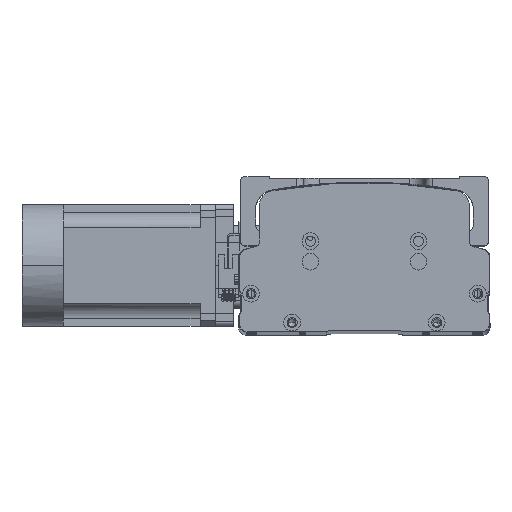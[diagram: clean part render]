
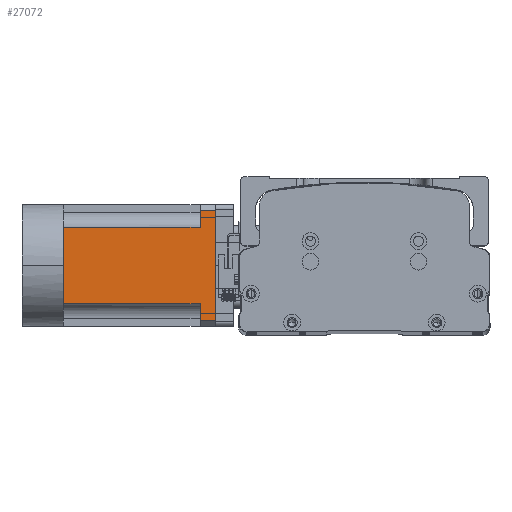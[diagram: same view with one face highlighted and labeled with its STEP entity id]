
A CAD part, top view. The second image highlights one B-rep face of the part: STEP entity #27072.
In plain terms, the highlighted planar face has unit normal (0, -0.003, 1) as drawn and (0, 0, -1) by its records, which use the part's own axes.
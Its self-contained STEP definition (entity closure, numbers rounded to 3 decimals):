
#1167 = DIRECTION ( 'NONE',  ( -1., 0., 0. ) ) ;
#2280 = CARTESIAN_POINT ( 'NONE',  ( -40., 0., -40. ) ) ;
#2889 = CARTESIAN_POINT ( 'NONE',  ( -25., -27., -40. ) ) ;
#2937 = CARTESIAN_POINT ( 'NONE',  ( -40., 0., -40. ) ) ;
#4134 = CARTESIAN_POINT ( 'NONE',  ( 36., 100., -40. ) ) ;
#4212 = ORIENTED_EDGE ( 'NONE', *, *, #38531, .T. ) ;
#4340 = DIRECTION ( 'NONE',  ( 0., 1., 0. ) ) ;
#5735 = AXIS2_PLACEMENT_3D ( 'NONE', #20527, #24449, #1167 ) ;
#5803 = VERTEX_POINT ( 'NONE', #7200 ) ;
#7200 = CARTESIAN_POINT ( 'NONE',  ( -25., 90., -40. ) ) ;
#7787 = CARTESIAN_POINT ( 'NONE',  ( -25., 0., -40. ) ) ;
#7981 = EDGE_CURVE ( 'NONE', #29539, #13486, #41299, .T. ) ;
#8388 = ORIENTED_EDGE ( 'NONE', *, *, #45149, .T. ) ;
#8851 = VECTOR ( 'NONE', #47429, 1000. ) ;
#8999 = VECTOR ( 'NONE', #33837, 1000. ) ;
#9034 = ORIENTED_EDGE ( 'NONE', *, *, #33605, .T. ) ;
#10208 = LINE ( 'NONE', #2889, #8999 ) ;
#10684 = LINE ( 'NONE', #43391, #40487 ) ;
#11106 = VECTOR ( 'NONE', #48863, 1000. ) ;
#12281 = CARTESIAN_POINT ( 'NONE',  ( 25., 90., -40. ) ) ;
#12362 = CARTESIAN_POINT ( 'NONE',  ( 25., 0., -40. ) ) ;
#12733 = VECTOR ( 'NONE', #4340, 1000. ) ;
#13048 = EDGE_LOOP ( 'NONE', ( #36412, #17933, #8388, #48542, #9034, #42043, #39690, #4212, #40430 ) ) ;
#13486 = VERTEX_POINT ( 'NONE', #19384 ) ;
#13753 = VECTOR ( 'NONE', #14468, 1000. ) ;
#14468 = DIRECTION ( 'NONE',  ( -1., 0., 0. ) ) ;
#15545 = VECTOR ( 'NONE', #23357, 1000. ) ;
#15907 = CARTESIAN_POINT ( 'NONE',  ( -40., 90., -40. ) ) ;
#16715 = EDGE_CURVE ( 'NONE', #49562, #44267, #10684, .T. ) ;
#16923 = VECTOR ( 'NONE', #28126, 1000. ) ;
#17933 = ORIENTED_EDGE ( 'NONE', *, *, #16715, .T. ) ;
#19384 = CARTESIAN_POINT ( 'NONE',  ( -36., 100., -40. ) ) ;
#20120 = DIRECTION ( 'NONE',  ( 0., -1., 0. ) ) ;
#20527 = CARTESIAN_POINT ( 'NONE',  ( -40., -27., -40. ) ) ;
#21168 = EDGE_CURVE ( 'NONE', #27015, #5803, #10208, .T. ) ;
#23357 = DIRECTION ( 'NONE',  ( -1., 0., 0. ) ) ;
#23767 = EDGE_CURVE ( 'NONE', #49562, #13486, #44260, .T. ) ;
#24449 = DIRECTION ( 'NONE',  ( 0., 0., -1. ) ) ;
#24689 = CARTESIAN_POINT ( 'NONE',  ( -36., 90., -40. ) ) ;
#27015 = VERTEX_POINT ( 'NONE', #7787 ) ;
#27072 = ADVANCED_FACE ( 'NONE', ( #42579 ), #43808, .T. ) ;
#27812 = CARTESIAN_POINT ( 'NONE',  ( -36., -27., -40. ) ) ;
#28126 = DIRECTION ( 'NONE',  ( -1., 0., 0. ) ) ;
#29155 = EDGE_CURVE ( 'NONE', #39723, #27015, #43584, .T. ) ;
#29539 = VERTEX_POINT ( 'NONE', #24689 ) ;
#29544 = LINE ( 'NONE', #43495, #8851 ) ;
#32905 = LINE ( 'NONE', #43996, #42010 ) ;
#33605 = EDGE_CURVE ( 'NONE', #46811, #39723, #42113, .T. ) ;
#33837 = DIRECTION ( 'NONE',  ( 0., 1., 0. ) ) ;
#36412 = ORIENTED_EDGE ( 'NONE', *, *, #23767, .F. ) ;
#38003 = VERTEX_POINT ( 'NONE', #12281 ) ;
#38531 = EDGE_CURVE ( 'NONE', #5803, #29539, #29544, .T. ) ;
#39690 = ORIENTED_EDGE ( 'NONE', *, *, #21168, .T. ) ;
#39723 = VERTEX_POINT ( 'NONE', #44954 ) ;
#40430 = ORIENTED_EDGE ( 'NONE', *, *, #7981, .T. ) ;
#40487 = VECTOR ( 'NONE', #20120, 1000. ) ;
#40688 = EDGE_CURVE ( 'NONE', #38003, #46811, #32905, .T. ) ;
#41299 = LINE ( 'NONE', #27812, #12733 ) ;
#41457 = CARTESIAN_POINT ( 'NONE',  ( 36., 90., -40. ) ) ;
#42010 = VECTOR ( 'NONE', #47935, 1000. ) ;
#42043 = ORIENTED_EDGE ( 'NONE', *, *, #29155, .T. ) ;
#42113 = LINE ( 'NONE', #2280, #11106 ) ;
#42579 = FACE_OUTER_BOUND ( 'NONE', #13048, .T. ) ;
#43391 = CARTESIAN_POINT ( 'NONE',  ( 36., -27., -40. ) ) ;
#43495 = CARTESIAN_POINT ( 'NONE',  ( -40., 90., -40. ) ) ;
#43584 = LINE ( 'NONE', #2937, #13753 ) ;
#43808 = PLANE ( 'NONE',  #5735 ) ;
#43996 = CARTESIAN_POINT ( 'NONE',  ( 25., -27., -40. ) ) ;
#44260 = LINE ( 'NONE', #47492, #16923 ) ;
#44267 = VERTEX_POINT ( 'NONE', #41457 ) ;
#44954 = CARTESIAN_POINT ( 'NONE',  ( 0., 0., -40. ) ) ;
#45149 = EDGE_CURVE ( 'NONE', #44267, #38003, #46560, .T. ) ;
#46560 = LINE ( 'NONE', #15907, #15545 ) ;
#46811 = VERTEX_POINT ( 'NONE', #12362 ) ;
#47429 = DIRECTION ( 'NONE',  ( -1., 0., 0. ) ) ;
#47492 = CARTESIAN_POINT ( 'NONE',  ( -40., 100., -40. ) ) ;
#47935 = DIRECTION ( 'NONE',  ( 0., -1., 0. ) ) ;
#48542 = ORIENTED_EDGE ( 'NONE', *, *, #40688, .T. ) ;
#48863 = DIRECTION ( 'NONE',  ( -1., 0., 0. ) ) ;
#49562 = VERTEX_POINT ( 'NONE', #4134 ) ;
